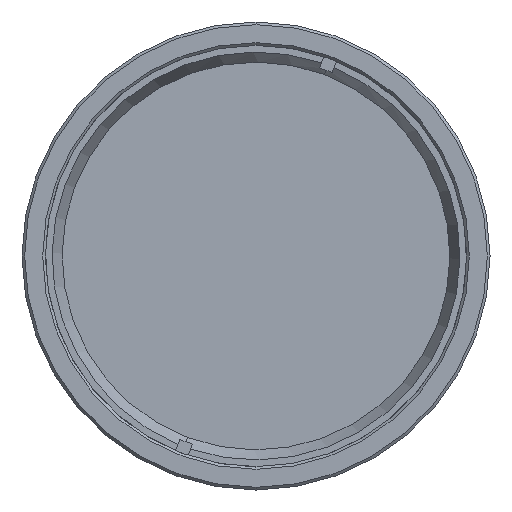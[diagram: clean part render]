
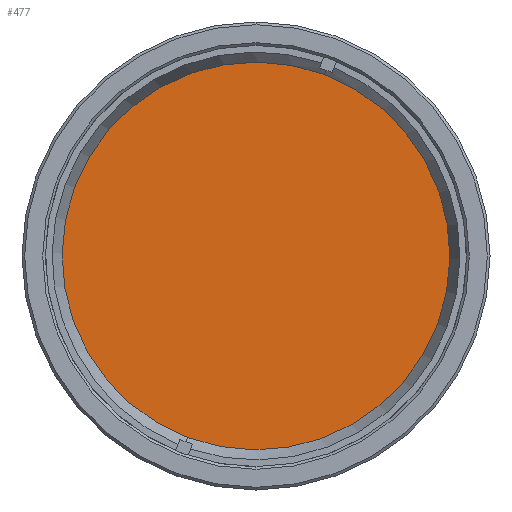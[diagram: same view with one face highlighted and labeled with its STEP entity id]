
A CAD part, left-side view. The second image highlights one B-rep face of the part: STEP entity #477.
In plain terms, the highlighted planar face has unit normal (-1, 0, 0).
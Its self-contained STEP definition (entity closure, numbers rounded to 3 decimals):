
#144 = CARTESIAN_POINT ( 'NONE',  ( 2.777, 16.382, 0. ) ) ;
#172 = FACE_OUTER_BOUND ( 'NONE', #1824, .T. ) ;
#294 = EDGE_CURVE ( 'NONE', #878, #1476, #2475, .T. ) ;
#310 = DIRECTION ( 'NONE',  ( -1., 0., 0. ) ) ;
#477 = ADVANCED_FACE ( 'NONE', ( #172 ), #1653, .F. ) ;
#554 = EDGE_CURVE ( 'NONE', #1476, #878, #1913, .T. ) ;
#713 = CARTESIAN_POINT ( 'NONE',  ( 2.777, -5.107, 13.571 ) ) ;
#875 = AXIS2_PLACEMENT_3D ( 'NONE', #144, #1898, #1909 ) ;
#878 = VERTEX_POINT ( 'NONE', #2357 ) ;
#1366 = ORIENTED_EDGE ( 'NONE', *, *, #554, .T. ) ;
#1476 = VERTEX_POINT ( 'NONE', #713 ) ;
#1492 = CARTESIAN_POINT ( 'NONE',  ( 2.777, 0., 0. ) ) ;
#1653 = PLANE ( 'NONE',  #875 ) ;
#1687 = ORIENTED_EDGE ( 'NONE', *, *, #294, .T. ) ;
#1692 = DIRECTION ( 'NONE',  ( 0., -0.352, 0.936 ) ) ;
#1738 = AXIS2_PLACEMENT_3D ( 'NONE', #1492, #1983, #1692 ) ;
#1824 = EDGE_LOOP ( 'NONE', ( #1366, #1687 ) ) ;
#1829 = CARTESIAN_POINT ( 'NONE',  ( 2.777, 0., 0. ) ) ;
#1898 = DIRECTION ( 'NONE',  ( 1., 0., 0. ) ) ;
#1909 = DIRECTION ( 'NONE',  ( 0., 1., 0. ) ) ;
#1913 = CIRCLE ( 'NONE', #1738, 14.5 ) ;
#1983 = DIRECTION ( 'NONE',  ( -1., 0., 0. ) ) ;
#2084 = DIRECTION ( 'NONE',  ( 0., -0.352, 0.936 ) ) ;
#2357 = CARTESIAN_POINT ( 'NONE',  ( 2.777, 5.107, -13.571 ) ) ;
#2475 = CIRCLE ( 'NONE', #2696, 14.5 ) ;
#2696 = AXIS2_PLACEMENT_3D ( 'NONE', #1829, #310, #2084 ) ;
